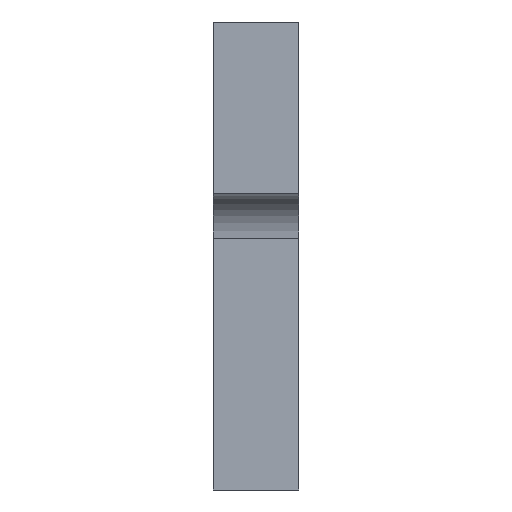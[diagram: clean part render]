
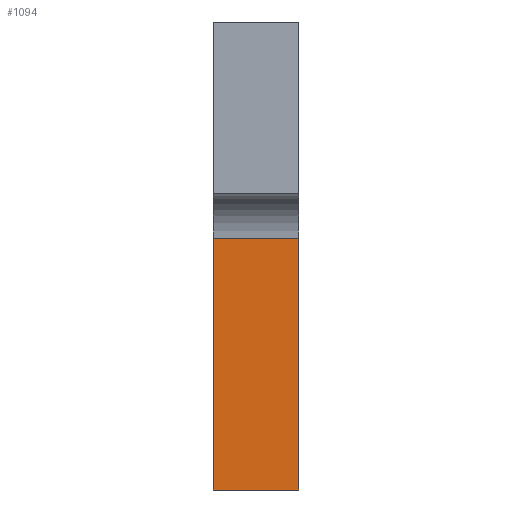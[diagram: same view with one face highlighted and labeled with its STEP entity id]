
A CAD part, left-side view. The second image highlights one B-rep face of the part: STEP entity #1094.
In plain terms, the highlighted planar face has unit normal (-1, 0, 0).
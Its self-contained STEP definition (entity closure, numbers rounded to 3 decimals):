
#151 = VECTOR ( 'NONE', #1098, 1000. ) ;
#210 = EDGE_CURVE ( 'NONE', #2108, #380, #1497, .T. ) ;
#264 = PLANE ( 'NONE',  #2207 ) ;
#274 = VECTOR ( 'NONE', #560, 1000. ) ;
#375 = LINE ( 'NONE', #2091, #1959 ) ;
#380 = VERTEX_POINT ( 'NONE', #1899 ) ;
#465 = DIRECTION ( 'NONE',  ( 0., -1., 0. ) ) ;
#560 = DIRECTION ( 'NONE',  ( 0., 0., -1. ) ) ;
#578 = ORIENTED_EDGE ( 'NONE', *, *, #1766, .T. ) ;
#676 = EDGE_CURVE ( 'NONE', #2230, #1022, #1848, .T. ) ;
#713 = CARTESIAN_POINT ( 'NONE',  ( -145.631, -20.797, 446.954 ) ) ;
#912 = CARTESIAN_POINT ( 'NONE',  ( -145.631, -20.797, 446.954 ) ) ;
#1008 = CARTESIAN_POINT ( 'NONE',  ( -145.631, -20.797, 490.954 ) ) ;
#1022 = VERTEX_POINT ( 'NONE', #713 ) ;
#1094 = ADVANCED_FACE ( 'NONE', ( #1193 ), #264, .T. ) ;
#1098 = DIRECTION ( 'NONE',  ( 0., -1., 0. ) ) ;
#1169 = DIRECTION ( 'NONE',  ( -1., 0., 0. ) ) ;
#1193 = FACE_OUTER_BOUND ( 'NONE', #1773, .T. ) ;
#1274 = EDGE_CURVE ( 'NONE', #1022, #2108, #375, .T. ) ;
#1282 = VECTOR ( 'NONE', #1515, 1000. ) ;
#1352 = CARTESIAN_POINT ( 'NONE',  ( -145.631, -5.797, 446.954 ) ) ;
#1384 = DIRECTION ( 'NONE',  ( 0., 0., 1. ) ) ;
#1422 = CARTESIAN_POINT ( 'NONE',  ( -145.631, -5.797, 446.954 ) ) ;
#1497 = LINE ( 'NONE', #2034, #1282 ) ;
#1515 = DIRECTION ( 'NONE',  ( 0., 1., 0. ) ) ;
#1523 = CARTESIAN_POINT ( 'NONE',  ( -145.631, -20.797, 446.954 ) ) ;
#1623 = ORIENTED_EDGE ( 'NONE', *, *, #1274, .T. ) ;
#1766 = EDGE_CURVE ( 'NONE', #380, #2230, #2229, .T. ) ;
#1773 = EDGE_LOOP ( 'NONE', ( #1623, #2256, #578, #2097 ) ) ;
#1848 = LINE ( 'NONE', #912, #151 ) ;
#1899 = CARTESIAN_POINT ( 'NONE',  ( -145.631, -5.797, 490.954 ) ) ;
#1959 = VECTOR ( 'NONE', #1384, 1000. ) ;
#2034 = CARTESIAN_POINT ( 'NONE',  ( -145.631, -20.967, 490.954 ) ) ;
#2091 = CARTESIAN_POINT ( 'NONE',  ( -145.631, -20.797, 461.954 ) ) ;
#2097 = ORIENTED_EDGE ( 'NONE', *, *, #676, .T. ) ;
#2108 = VERTEX_POINT ( 'NONE', #1008 ) ;
#2207 = AXIS2_PLACEMENT_3D ( 'NONE', #1523, #1169, #465 ) ;
#2229 = LINE ( 'NONE', #1422, #274 ) ;
#2230 = VERTEX_POINT ( 'NONE', #1352 ) ;
#2256 = ORIENTED_EDGE ( 'NONE', *, *, #210, .T. ) ;
